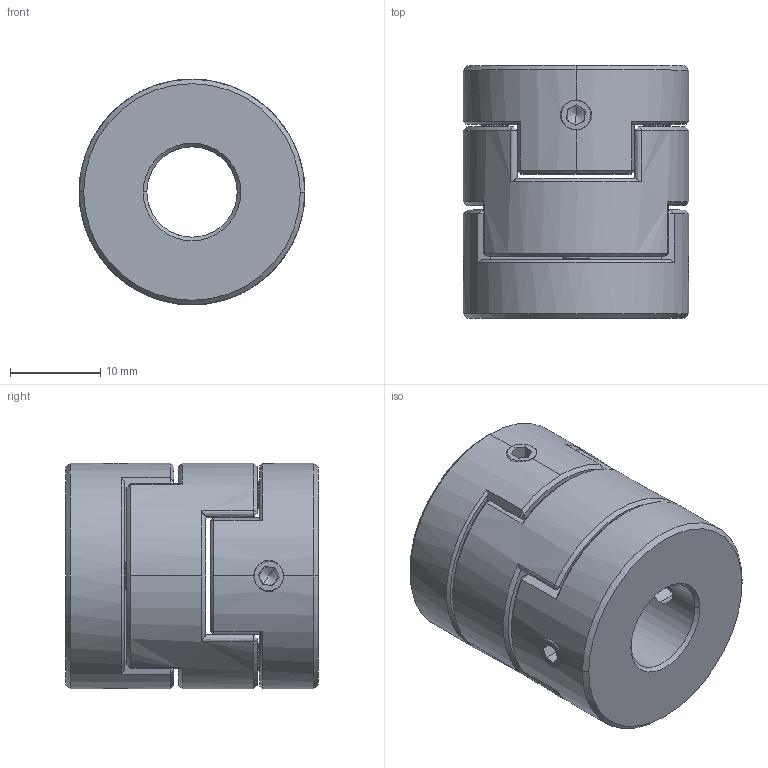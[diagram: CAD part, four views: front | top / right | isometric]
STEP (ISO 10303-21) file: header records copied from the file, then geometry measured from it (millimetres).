
FILE_DESCRIPTION (( 'STEP AP203' ), '1' );
FILE_NAME ('LZ-D-D25L28-10-10.STEP', '2021-10-30T02:21:25', ( '' ), ( '' ), 'SwSTEP 2.0', 'SolidWorks 2018', '' );
FILE_SCHEMA (( 'CONFIG_CONTROL_DESIGN' ));
Length unit declared in the file: millimetre
Products named in the file (1): LZ-D-D25L28-10-10
Bounding box: 25 x 28 x 25 mm (x, y, z)
Volume: 10889.9 mm3; surface area: 5543.9 mm2
Topology: 1 solids, 1 shells, 218 faces, 574 edges, 348 vertices
Faces by surface type: plane 88, cone 54, bspline 50, cylinder 26
Entity records: 9888 total; most frequent: CARTESIAN_POINT 4964, ORIENTED_EDGE 1132, DIRECTION 834, EDGE_CURVE 566, VERTEX_POINT 348, AXIS2_PLACEMENT_3D 303, EDGE_LOOP 234, LINE 228
